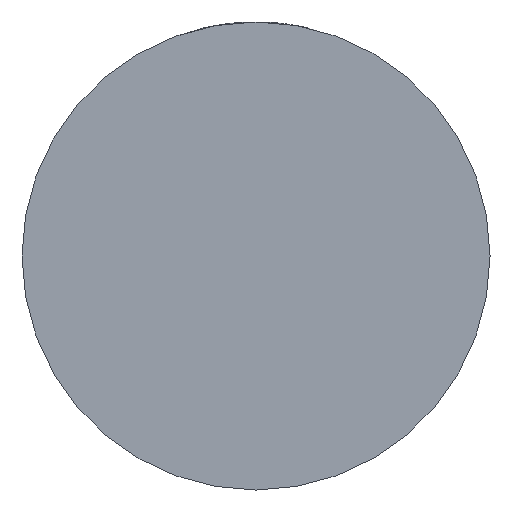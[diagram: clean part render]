
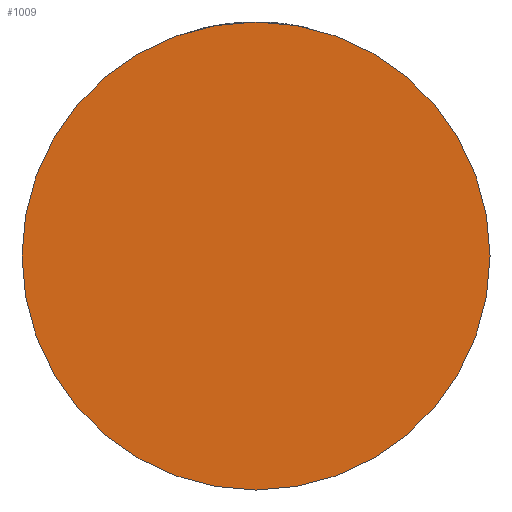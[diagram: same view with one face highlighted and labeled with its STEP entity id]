
A CAD part, front view. The second image highlights one B-rep face of the part: STEP entity #1009.
In plain terms, the highlighted planar face has unit normal (0, -1, 0).
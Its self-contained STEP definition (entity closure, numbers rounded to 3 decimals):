
#109 = FACE_OUTER_BOUND ( 'NONE', #783, .T. ) ;
#286 = CARTESIAN_POINT ( 'NONE',  ( 0., -28., 0. ) ) ;
#388 = DIRECTION ( 'NONE',  ( 0., -1., 0. ) ) ;
#700 = DIRECTION ( 'NONE',  ( 1., 0., 0. ) ) ;
#783 = EDGE_LOOP ( 'NONE', ( #3242, #2797 ) ) ;
#825 = CIRCLE ( 'NONE', #3747, 40. ) ;
#835 = CIRCLE ( 'NONE', #3479, 40. ) ;
#1009 = ADVANCED_FACE ( 'NONE', ( #109 ), #2502, .T. ) ;
#1023 = DIRECTION ( 'NONE',  ( 0., -1., 0. ) ) ;
#1448 = VERTEX_POINT ( 'NONE', #3874 ) ;
#1857 = EDGE_CURVE ( 'NONE', #2753, #1448, #825, .T. ) ;
#2018 = CARTESIAN_POINT ( 'NONE',  ( 0., -28., 0. ) ) ;
#2313 = DIRECTION ( 'NONE',  ( 1., 0., 0. ) ) ;
#2502 = PLANE ( 'NONE',  #2944 ) ;
#2753 = VERTEX_POINT ( 'NONE', #4170 ) ;
#2797 = ORIENTED_EDGE ( 'NONE', *, *, #1857, .T. ) ;
#2944 = AXIS2_PLACEMENT_3D ( 'NONE', #4091, #388, #700 ) ;
#3242 = ORIENTED_EDGE ( 'NONE', *, *, #3709, .T. ) ;
#3381 = DIRECTION ( 'NONE',  ( 1., 0., 0. ) ) ;
#3479 = AXIS2_PLACEMENT_3D ( 'NONE', #286, #1023, #2313 ) ;
#3709 = EDGE_CURVE ( 'NONE', #1448, #2753, #835, .T. ) ;
#3747 = AXIS2_PLACEMENT_3D ( 'NONE', #2018, #3778, #3381 ) ;
#3778 = DIRECTION ( 'NONE',  ( 0., -1., 0. ) ) ;
#3874 = CARTESIAN_POINT ( 'NONE',  ( -40., -28., 0. ) ) ;
#4091 = CARTESIAN_POINT ( 'NONE',  ( 0., -28., 0. ) ) ;
#4170 = CARTESIAN_POINT ( 'NONE',  ( 40., -28., 0. ) ) ;
